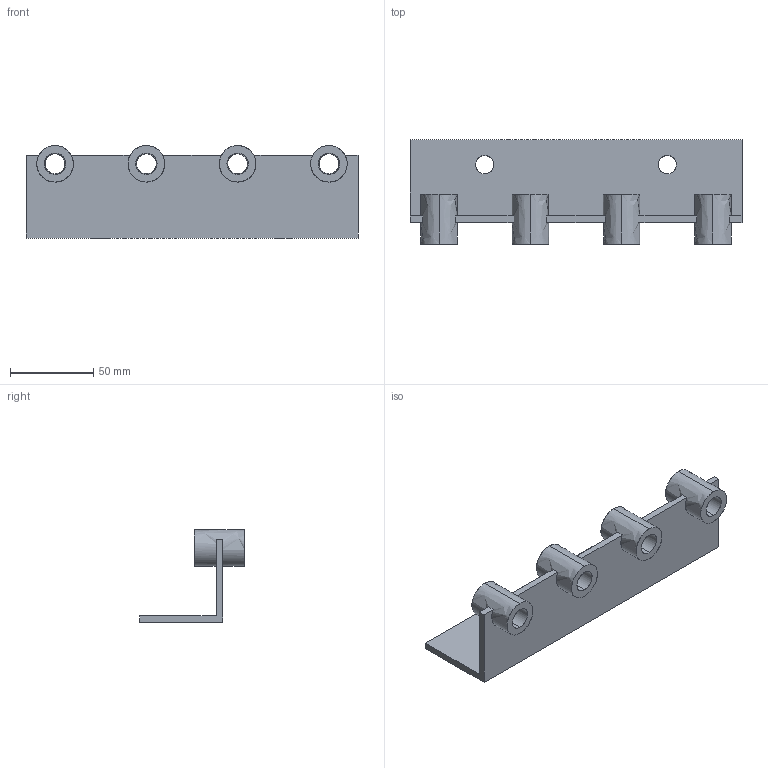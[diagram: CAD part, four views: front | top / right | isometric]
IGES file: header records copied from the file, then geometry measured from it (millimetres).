
Global section: file name: E:\UnigraphicsGraphicData\MISUMI_PRESS-PARTS\IGES\3d_tahk-d-3_01851_r00.igs; native system: NX V5.0; preprocessor: UGS NX IGES V5.0; author: MISUMI; date: 20110105.163349; units: millimetre
Bounding box: 200 x 63 x 56 mm (x, y, z)
Surface area: 52218.8 mm2 (no closed solid volume)
Topology: 0 solids, 0 shells, 64 faces, 496 edges, 496 vertices
Faces by surface type: bspline 64
